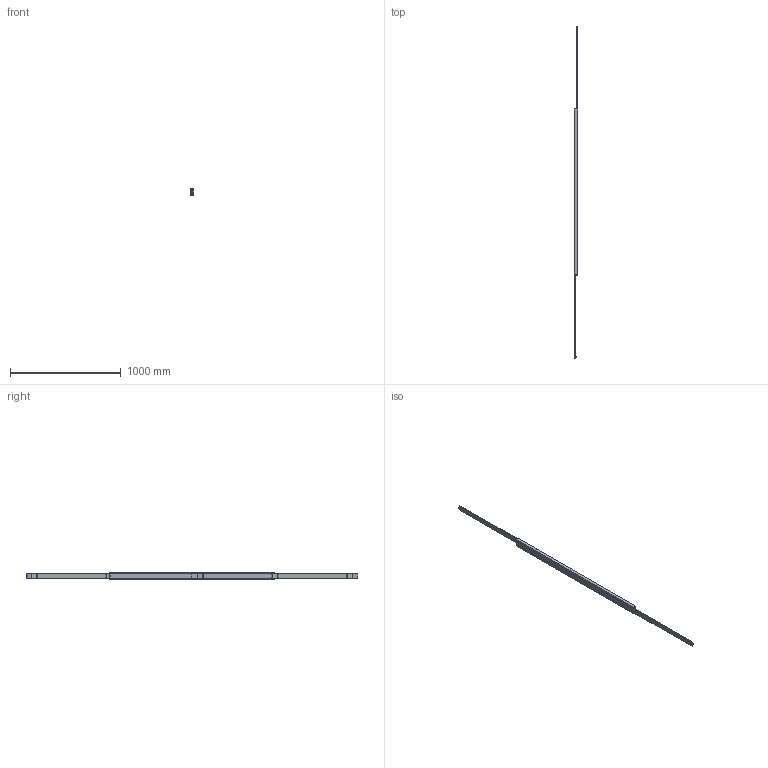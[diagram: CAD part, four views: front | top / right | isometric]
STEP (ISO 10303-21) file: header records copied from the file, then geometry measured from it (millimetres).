
FILE_DESCRIPTION(/* description */ (''),/* implementation_level */ '2;1');
FILE_NAME(/* name */ 'D:\Zeichnungen Schienen Komplett\MX-DTP70\MX-DTP70.150\MX-DTP70.150_ausgefahren.stp',/* time_stamp */ '2021-06-15T12:00:56+02:00',/* author */ ('zmile'),/* organization */ (''),/* preprocessor_version */ 'ST-DEVELOPER v16.13',/* originating_system */ 'AutoCAD Mechanical',/* authorisation */ '');
FILE_SCHEMA (('AUTOMOTIVE_DESIGN { 1 0 10303 214 3 1 1 }'));
Length unit declared in the file: millimetre
Products named in the file (1): Product
Bounding box: 32 x 3000 x 70 mm (x, y, z)
Volume: 2556279.3 mm3; surface area: 849828.7 mm2
Topology: 61 solids, 63 shells, 190 faces, 632 edges, 456 vertices
Faces by surface type: plane 82, sphere 56, cylinder 38, bspline 8, torus 6
Full cylindrical faces by diameter (mm): 8 x24, 13 x2
Entity records: 14317 total; most frequent: CARTESIAN_POINT 8949, DIRECTION 1090, ORIENTED_EDGE 828, EDGE_CURVE 486, VERTEX_POINT 454, AXIS2_PLACEMENT_3D 439, EDGE_LOOP 386, CIRCLE 252
